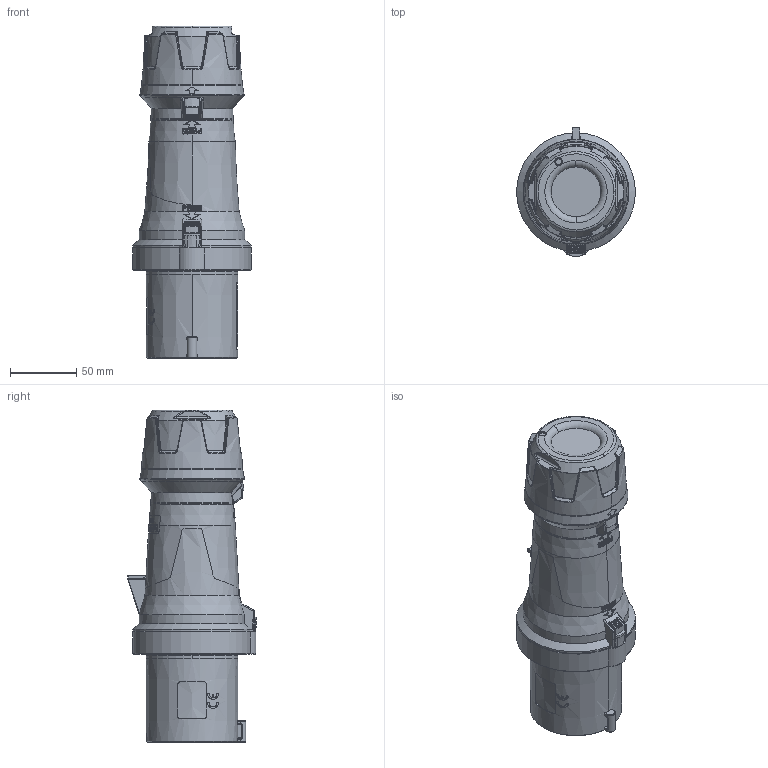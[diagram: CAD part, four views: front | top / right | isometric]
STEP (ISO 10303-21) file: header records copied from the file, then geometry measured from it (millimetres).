
FILE_DESCRIPTION((''),'2;1');
FILE_NAME('1115349_ASM_SW0001','2018-02-08T',('gisse'),('MENNEKES'),'PRO/ENGINEER BY PARAMETRIC TECHNOLOGY CORPORATION, 2015440','PRO/ENGINEER BY PARAMETRIC TECHNOLOGY CORPORATION, 2015440','');
FILE_SCHEMA(('AUTOMOTIVE_DESIGN { 1 0 10303 214 1 1 1 1 }'));
Length unit declared in the file: millimetre
Products named in the file (1): 1115349_ASM_SW0001
Bounding box: 89.38 x 96.91 x 249.9 mm (x, y, z)
Volume: 818946.5 mm3; surface area: 93948.5 mm2
Topology: 2 solids, 2 shells, 2011 faces, 5432 edges, 3522 vertices
Faces by surface type: extrusion 702, plane 691, bspline 237, cylinder 167, cone 141, torus 55, sphere 18
Entity records: 114050 total; most frequent: CARTESIAN_POINT 32730, ORIENTED_EDGE 10864, PRESENTATION_STYLE_ASSIGNMENT 7694, DIRECTION 6449, STYLED_ITEM 5782, CURVE_STYLE 5693, EDGE_CURVE 5432, VERTEX_POINT 3522
